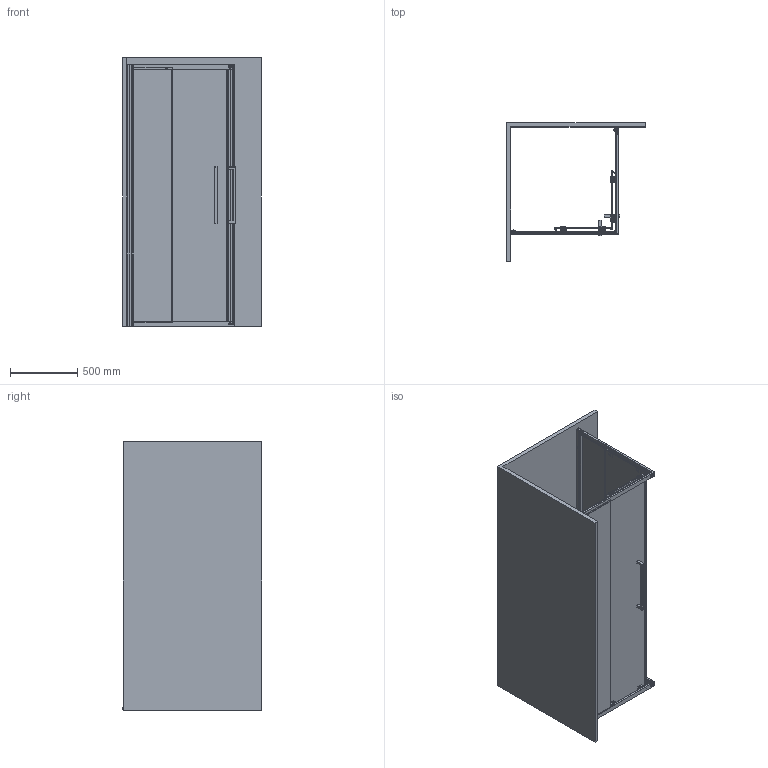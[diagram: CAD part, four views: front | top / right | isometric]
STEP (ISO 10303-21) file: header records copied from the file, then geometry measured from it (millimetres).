
FILE_DESCRIPTION((''),'2;1');
FILE_NAME('00-A617022_ASM','2022-06-07T16:15:14',('M'),(''),'CREO PARAMETRIC BY PTC INC, 2017110','CREO PARAMETRIC BY PTC INC, 2017110','');
FILE_SCHEMA(('CONFIG_CONTROL_DESIGN'));
Length unit declared in the file: millimetre
Products named in the file (42): 00; DBT_ST4X20; YTZG_ST4X10; 28Z05-1-; 28Z05-2-; 001_ASM; 003; 0005; 000; _0003; 0020; 0032; _AF_ASM; _0004; 0021; _A_ASM; 10001; 4500; 0031_ASM; 0025; 00_ASM; 0027; 0035; 1-N000; _N1000; 0036; 0; 00-A617022_ASM
Assembly tree (115 placements, depth 4):
  00-A617022_ASM
    001_ASM  x2
      00
      00
      DBT_ST4X20
      001_ASM
        YTZG_ST4X10
        28Z05-1-
        28Z05-2-
    00  x2
    003  x2
    0005  x2
    0031_ASM
      000
      _AF_ASM
        _0003
        00
        0020
        0032
      _AF_ASM
        _0003
        00
        0020
        0032
      _A_ASM
        _0004
        0021
        00
        0032
      _A_ASM
        _0004
        0021
        00
        0032
      10001
      4500
      00  x2
    0025  x2
    00  x2
    00_ASM
      000
      _AF_ASM
        _0003
        00
        0020
        0032
      _AF_ASM
        _0003
        00
        0020
        0032
      _A_ASM
        _0004
        0021
        00
        0032
      _A_ASM
        _0004
        0021
        00
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Bounding box: 1030 x 1036.4 x 2000.1 mm (x, y, z)
Volume: 152083913 mm3; surface area: 16725938.2 mm2
Topology: 121 solids, 121 shells, 4312 faces, 10394 edges, 6440 vertices
Faces by surface type: cylinder 1672, plane 1624, bspline 442, torus 294, sphere 168, cone 112
Entity records: 41130 total; most frequent: CARTESIAN_POINT 15966, DIRECTION 5304, ORIENTED_EDGE 4884, EDGE_CURVE 2442, AXIS2_PLACEMENT_3D 1952, VERTEX_POINT 1530, VECTOR 1400, LINE 1400
